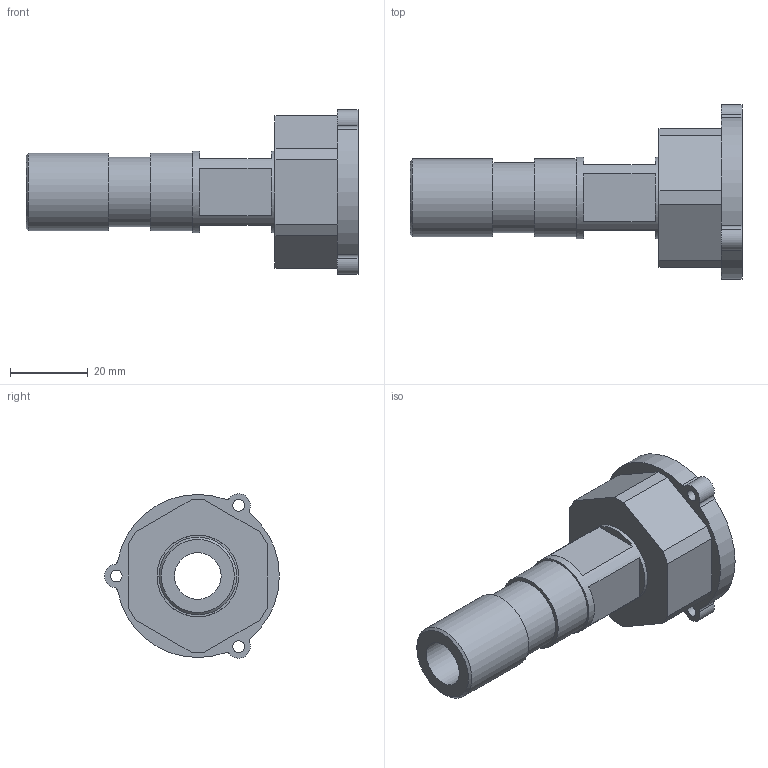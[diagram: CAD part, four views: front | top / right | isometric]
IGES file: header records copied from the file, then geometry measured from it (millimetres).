
Global section: file name: 0358916020.ipt; native system: Autodesk Inventor 2015; preprocessor: unknown; author: KIM; date: 20170529.144921; units: millimetre
Bounding box: 85.5 x 44.99 x 42.36 mm (x, y, z)
Volume: 28772.6 mm3; surface area: 13460.1 mm2
Topology: 1 solids, 1 shells, 54 faces, 132 edges, 89 vertices
Faces by surface type: plane 32, revolution 11, cylinder 10, cone 1
Full cylindrical faces by diameter (mm): 18 x1, 20 x2, 21 x1
